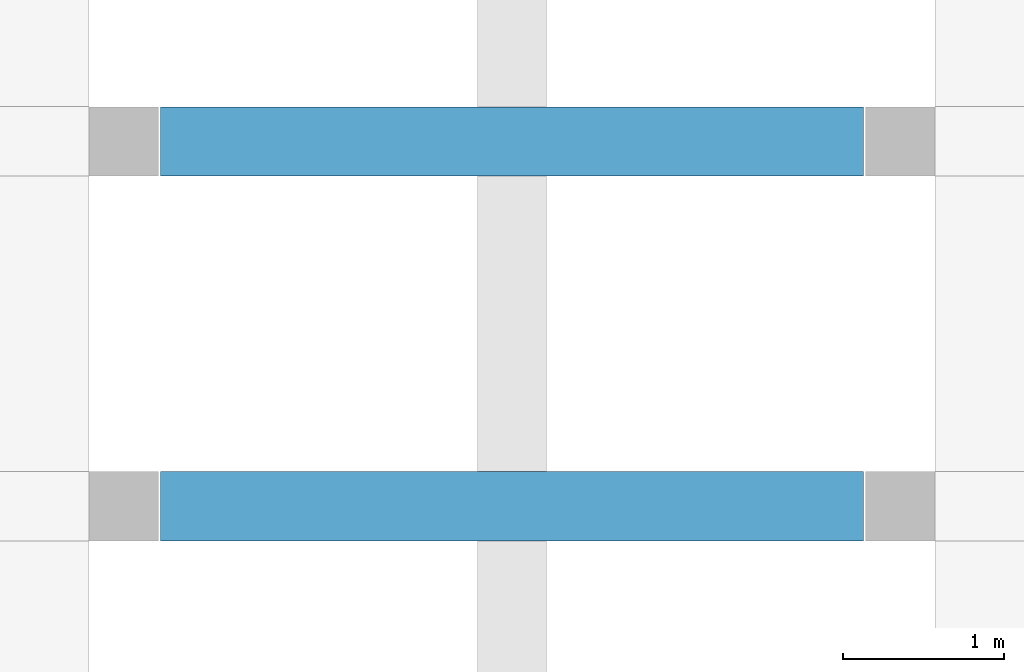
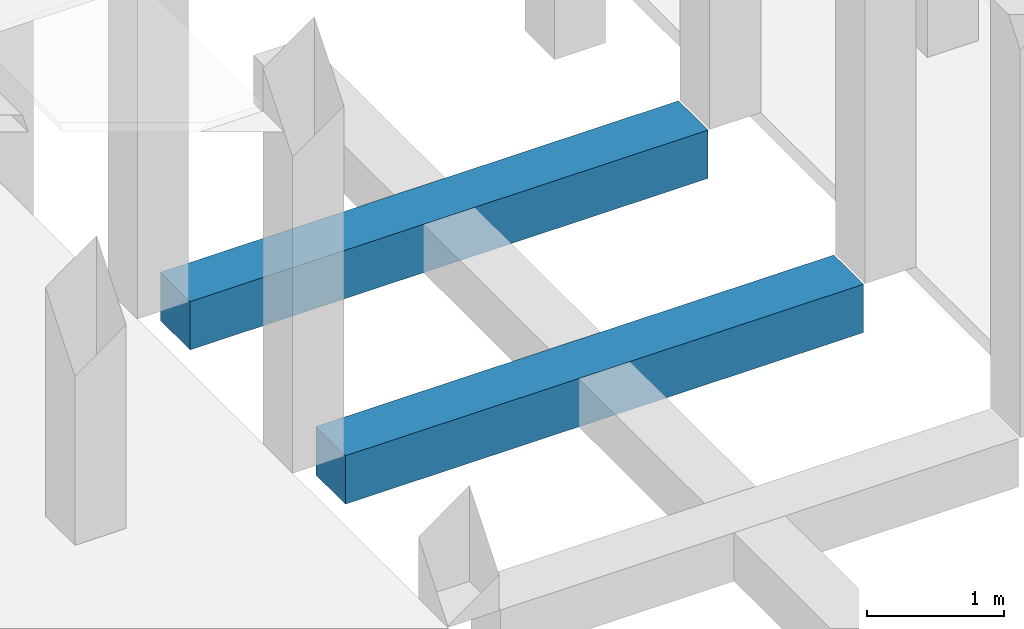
# One storey, part 13 of 18: 2 beams.
"""IFC2X3 building model written with IfcOpenShell, lengths in millimetres."""

from ifc_helpers import new_model, entity, si_unit, converted_unit, derived_unit, direction, frame, frame_2d, origin, place, context, subcontext, project, spatial, rectangle, extrude, material, type_object, element, save


model = new_model("IFC2X3")

# Units and contexts
model_context = context("Model", 3, precision=0.01, world=origin(), true_north=direction((6.12303176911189e-17, 1.0)))
body_context = subcontext(model_context, "Body", "Model", "MODEL_VIEW")
ifc_project = project(units=[si_unit("LENGTHUNIT", "METRE", prefix="MILLI"), si_unit("AREAUNIT", "SQUARE_METRE"), si_unit("VOLUMEUNIT", "CUBIC_METRE"), converted_unit("PLANEANGLEUNIT", "DEGREE", entity("IfcRatioMeasure", 0.0174532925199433), si_unit("PLANEANGLEUNIT", "RADIAN"), dimensions=[0, 0, 0, 0, 0, 0, 0]), si_unit("MASSUNIT", "GRAM", prefix="KILO"), derived_unit("MASSDENSITYUNIT", [(si_unit("MASSUNIT", "GRAM", prefix="KILO"), 1), (si_unit("LENGTHUNIT", "METRE"), -3)]), derived_unit("MOMENTOFINERTIAUNIT", [(si_unit("LENGTHUNIT", "METRE"), 4)]), si_unit("TIMEUNIT", "SECOND"), si_unit("FREQUENCYUNIT", "HERTZ"), si_unit("THERMODYNAMICTEMPERATUREUNIT", "DEGREE_CELSIUS"), derived_unit("THERMALTRANSMITTANCEUNIT", [(si_unit("MASSUNIT", "GRAM", prefix="KILO"), 1), (si_unit("THERMODYNAMICTEMPERATUREUNIT", "KELVIN"), -1), (si_unit("TIMEUNIT", "SECOND"), -3)]), derived_unit("VOLUMETRICFLOWRATEUNIT", [(si_unit("LENGTHUNIT", "METRE"), 3), (si_unit("TIMEUNIT", "SECOND"), -1)]), si_unit("ELECTRICCURRENTUNIT", "AMPERE"), si_unit("ELECTRICVOLTAGEUNIT", "VOLT"), si_unit("POWERUNIT", "WATT"), si_unit("FORCEUNIT", "NEWTON", prefix="KILO"), si_unit("ILLUMINANCEUNIT", "LUX"), si_unit("LUMINOUSFLUXUNIT", "LUMEN"), si_unit("LUMINOUSINTENSITYUNIT", "CANDELA"), derived_unit("USERDEFINED", [(si_unit("MASSUNIT", "GRAM", prefix="KILO"), -1), (si_unit("LENGTHUNIT", "METRE"), -2), (si_unit("TIMEUNIT", "SECOND"), 3), (si_unit("LUMINOUSFLUXUNIT", "LUMEN"), 1)]), derived_unit("LINEARVELOCITYUNIT", [(si_unit("LENGTHUNIT", "METRE"), 1), (si_unit("TIMEUNIT", "SECOND"), -1)]), si_unit("PRESSUREUNIT", "PASCAL"), derived_unit("USERDEFINED", [(si_unit("LENGTHUNIT", "METRE"), -2), (si_unit("MASSUNIT", "GRAM", prefix="KILO"), 1), (si_unit("TIMEUNIT", "SECOND"), -2)]), derived_unit("LINEARFORCEUNIT", [(si_unit("MASSUNIT", "GRAM", prefix="KILO"), 1), (si_unit("LENGTHUNIT", "METRE"), 1), (si_unit("TIMEUNIT", "SECOND"), -2), (si_unit("LENGTHUNIT", "METRE"), -1)]), derived_unit("PLANARFORCEUNIT", [(si_unit("MASSUNIT", "GRAM", prefix="KILO"), 1), (si_unit("LENGTHUNIT", "METRE"), 1), (si_unit("TIMEUNIT", "SECOND"), -2), (si_unit("LENGTHUNIT", "METRE"), -2)])], contexts=[model_context])

# Site, building, storey
site_placement = place(None, frame((10627.5135316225, 21939.0796949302, 0.0)))
site = spatial("IfcSite", under=ifc_project, at=site_placement, Name="Default", CompositionType="ELEMENT")
building_placement = place(site_placement, origin())
building = spatial("IfcBuilding", under=site, at=building_placement, CompositionType="ELEMENT")
storey_placement = place(building_placement, frame((0.0, 0.0, 3660.0)))
storey = spatial("IfcBuildingStorey", under=building, at=storey_placement, Name="R+1", CompositionType="ELEMENT", Elevation=3660.0)

# Beams
ifc_material = material(Name="Concrete, Precast Smooth, Light Grey")
beam_type = type_object("IfcBeamType", Name="M_Concrete-Rectangular Beam:400 x 800mm", PredefinedType="NOTDEFINED")
beam_1_placement = place(storey_placement, frame((24172.4864683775, 14220.9203050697, 0.0)))
element("IfcBeam", 1, at=beam_1_placement, inside=storey, type_object=beam_type, material=ifc_material, Name="M_Concrete-Rectangular Beam:400 x 800mm", ObjectType="M_Concrete-Rectangular Beam:400 x 800mm", context=body_context, shape_type="SweptSolid", body=[
    extrude(rectangle(XDim=430.0, YDim=430.000000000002, at=frame_2d((0.0, 1.51629819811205e-11), x_axis=(1.0, 0.0))), frame((227.699999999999, 0.0, -215.0), z_axis=(1.0, 0.0, 0.0), x_axis=(0.0, 0.0, -1.0)), (0.0, 0.0, 1.0), 4354.59999999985),
])
beam_2_placement = place(storey_placement, frame((24172.4864683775, 11960.9203050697, 0.0)))
element("IfcBeam", 2, at=beam_2_placement, inside=storey, type_object=beam_type, material=ifc_material, Name="M_Concrete-Rectangular Beam:400 x 800mm", ObjectType="M_Concrete-Rectangular Beam:400 x 800mm", context=body_context, shape_type="SweptSolid", body=[
    extrude(rectangle(XDim=430.0, YDim=430.000000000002, at=frame_2d((0.0, 1.29887212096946e-11), x_axis=(1.0, 0.0))), frame((227.70000000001, 0.0, -215.0), z_axis=(1.0, 0.0, 0.0), x_axis=(0.0, 0.0, -1.0)), (0.0, 0.0, 1.0), 4354.59999999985),
])

save(model, "model.ifc")
